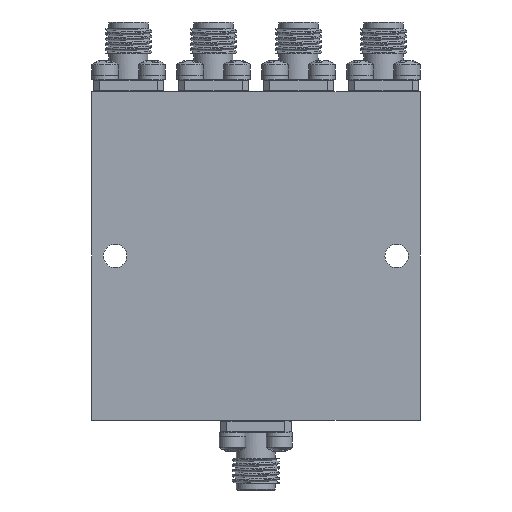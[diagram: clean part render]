
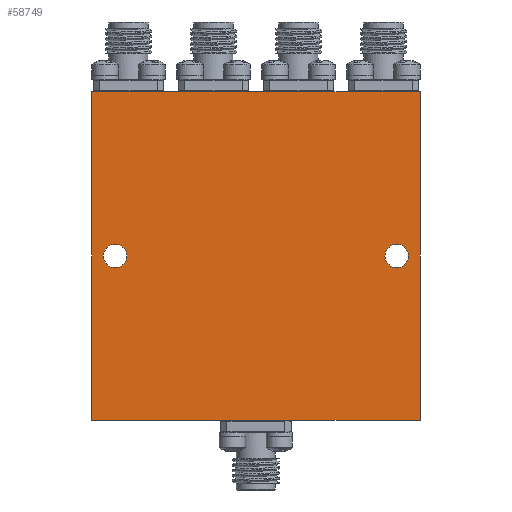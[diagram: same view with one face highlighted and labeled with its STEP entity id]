
A CAD part, front view. The second image highlights one B-rep face of the part: STEP entity #58749.
In plain terms, the highlighted planar face has unit normal (0, -1, 0).
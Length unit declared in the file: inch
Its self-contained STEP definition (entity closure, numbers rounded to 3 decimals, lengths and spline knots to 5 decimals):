
#1016 = DIRECTION ( 'NONE',  ( 1., 0., 0. ) ) ;
#2058 = CARTESIAN_POINT ( 'NONE',  ( 37.50855, 40.08929, 40.31255 ) ) ;
#3124 = EDGE_CURVE ( 'NONE', #59412, #67034, #62254, .T. ) ;
#3372 = FACE_BOUND ( 'NONE', #22316, .T. ) ;
#5587 = EDGE_LOOP ( 'NONE', ( #53105, #69263, #62776, #19485 ) ) ;
#8669 = FACE_OUTER_BOUND ( 'NONE', #5587, .T. ) ;
#8690 = VECTOR ( 'NONE', #24993, 39.37008 ) ;
#8929 = AXIS2_PLACEMENT_3D ( 'NONE', #37079, #10685, #43117 ) ;
#10685 = DIRECTION ( 'NONE',  ( 0., 1., 0. ) ) ;
#12104 = EDGE_CURVE ( 'NONE', #68264, #59412, #53218, .T. ) ;
#12674 = LINE ( 'NONE', #2058, #37696 ) ;
#13267 = CARTESIAN_POINT ( 'NONE',  ( 37.50855, 40.08929, 38.56255 ) ) ;
#13786 = CARTESIAN_POINT ( 'NONE',  ( 37.50855, 40.08929, 38.56255 ) ) ;
#15037 = CARTESIAN_POINT ( 'NONE',  ( 39.13355, 40.08929, 39.43755 ) ) ;
#15718 = DIRECTION ( 'NONE',  ( 0., 1., 0. ) ) ;
#18234 = EDGE_LOOP ( 'NONE', ( #64252 ) ) ;
#19485 = ORIENTED_EDGE ( 'NONE', *, *, #64863, .F. ) ;
#20747 = DIRECTION ( 'NONE',  ( 0., 0., 1. ) ) ;
#20809 = FACE_BOUND ( 'NONE', #18234, .T. ) ;
#22316 = EDGE_LOOP ( 'NONE', ( #39358 ) ) ;
#24993 = DIRECTION ( 'NONE',  ( 0., 0., 1. ) ) ;
#29391 = VECTOR ( 'NONE', #56283, 39.37008 ) ;
#31319 = VECTOR ( 'NONE', #42725, 39.37008 ) ;
#35117 = CARTESIAN_POINT ( 'NONE',  ( 37.50855, 40.08929, 38.56255 ) ) ;
#36686 = CARTESIAN_POINT ( 'NONE',  ( 39.25855, 40.08929, 38.56255 ) ) ;
#37079 = CARTESIAN_POINT ( 'NONE',  ( 38.38355, 40.08929, 39.43755 ) ) ;
#37696 = VECTOR ( 'NONE', #1016, 39.37008 ) ;
#37721 = CARTESIAN_POINT ( 'NONE',  ( 37.63355, 40.08929, 39.43755 ) ) ;
#38732 = AXIS2_PLACEMENT_3D ( 'NONE', #15037, #15718, #41530 ) ;
#39358 = ORIENTED_EDGE ( 'NONE', *, *, #64225, .T. ) ;
#41530 = DIRECTION ( 'NONE',  ( 0., 0., 1. ) ) ;
#41964 = LINE ( 'NONE', #13786, #8690 ) ;
#42725 = DIRECTION ( 'NONE',  ( 0., 0., -1. ) ) ;
#43117 = DIRECTION ( 'NONE',  ( 0., 0., 1. ) ) ;
#47690 = CIRCLE ( 'NONE', #38732, 0.0625 ) ;
#49243 = EDGE_CURVE ( 'NONE', #52440, #52440, #66902, .T. ) ;
#49281 = CARTESIAN_POINT ( 'NONE',  ( 39.13355, 40.08929, 39.50005 ) ) ;
#51399 = CARTESIAN_POINT ( 'NONE',  ( 37.63355, 40.08929, 39.50005 ) ) ;
#51655 = EDGE_CURVE ( 'NONE', #67034, #58275, #41964, .T. ) ;
#52440 = VERTEX_POINT ( 'NONE', #51399 ) ;
#53105 = ORIENTED_EDGE ( 'NONE', *, *, #51655, .F. ) ;
#53218 = LINE ( 'NONE', #36686, #31319 ) ;
#56283 = DIRECTION ( 'NONE',  ( -1., 0., 0. ) ) ;
#58275 = VERTEX_POINT ( 'NONE', #65534 ) ;
#58749 = ADVANCED_FACE ( 'NONE', ( #20809, #3372, #8669 ), #64240, .F. ) ;
#59412 = VERTEX_POINT ( 'NONE', #67837 ) ;
#62254 = LINE ( 'NONE', #13267, #29391 ) ;
#62776 = ORIENTED_EDGE ( 'NONE', *, *, #12104, .F. ) ;
#64225 = EDGE_CURVE ( 'NONE', #65856, #65856, #47690, .T. ) ;
#64240 = PLANE ( 'NONE',  #8929 ) ;
#64252 = ORIENTED_EDGE ( 'NONE', *, *, #49243, .T. ) ;
#64863 = EDGE_CURVE ( 'NONE', #58275, #68264, #12674, .T. ) ;
#65534 = CARTESIAN_POINT ( 'NONE',  ( 37.50855, 40.08929, 40.31255 ) ) ;
#65856 = VERTEX_POINT ( 'NONE', #49281 ) ;
#66902 = CIRCLE ( 'NONE', #67992, 0.0625 ) ;
#67034 = VERTEX_POINT ( 'NONE', #35117 ) ;
#67837 = CARTESIAN_POINT ( 'NONE',  ( 39.25855, 40.08929, 38.56255 ) ) ;
#67992 = AXIS2_PLACEMENT_3D ( 'NONE', #37721, #69037, #20747 ) ;
#68264 = VERTEX_POINT ( 'NONE', #68472 ) ;
#68472 = CARTESIAN_POINT ( 'NONE',  ( 39.25855, 40.08929, 40.31255 ) ) ;
#69037 = DIRECTION ( 'NONE',  ( 0., 1., 0. ) ) ;
#69263 = ORIENTED_EDGE ( 'NONE', *, *, #3124, .F. ) ;
